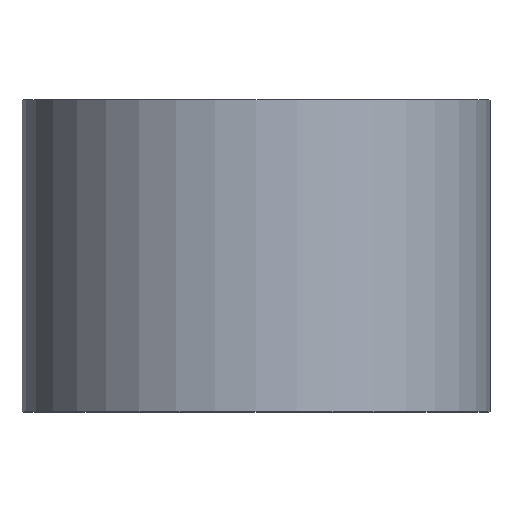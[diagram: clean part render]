
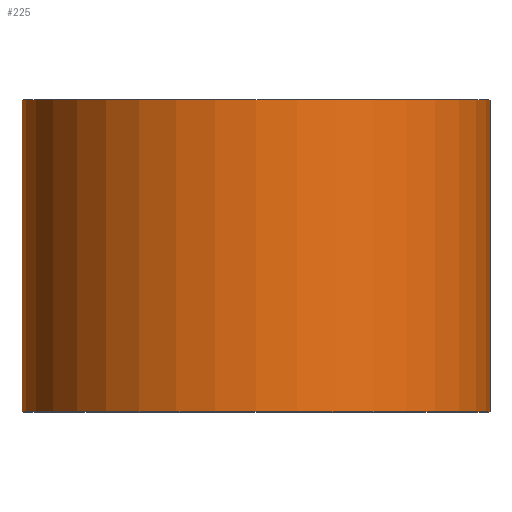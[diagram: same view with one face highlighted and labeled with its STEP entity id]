
A CAD part, top view. The second image highlights one B-rep face of the part: STEP entity #225.
In plain terms, the highlighted cylindrical face has radius 15 mm (diameter 30 mm), a partial arc.
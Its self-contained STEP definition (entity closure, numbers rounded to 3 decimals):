
#2 = CIRCLE ( 'NONE', #144, 15. ) ;
#3 = ORIENTED_EDGE ( 'NONE', *, *, #141, .T. ) ;
#12 = DIRECTION ( 'NONE',  ( -1., 0., 0. ) ) ;
#20 = CYLINDRICAL_SURFACE ( 'NONE', #175, 15. ) ;
#28 = FACE_OUTER_BOUND ( 'NONE', #284, .T. ) ;
#32 = ORIENTED_EDGE ( 'NONE', *, *, #157, .F. ) ;
#33 = DIRECTION ( 'NONE',  ( -1., 0., 0. ) ) ;
#58 = VECTOR ( 'NONE', #145, 1000. ) ;
#65 = DIRECTION ( 'NONE',  ( 0., 1., 0. ) ) ;
#76 = CARTESIAN_POINT ( 'NONE',  ( 0., 0., 0. ) ) ;
#80 = VERTEX_POINT ( 'NONE', #206 ) ;
#82 = CARTESIAN_POINT ( 'NONE',  ( 0., 20., 0. ) ) ;
#89 = VERTEX_POINT ( 'NONE', #224 ) ;
#92 = AXIS2_PLACEMENT_3D ( 'NONE', #189, #211, #159 ) ;
#93 = LINE ( 'NONE', #276, #234 ) ;
#113 = LINE ( 'NONE', #236, #58 ) ;
#126 = VERTEX_POINT ( 'NONE', #269 ) ;
#133 = EDGE_CURVE ( 'NONE', #191, #126, #93, .T. ) ;
#141 = EDGE_CURVE ( 'NONE', #191, #89, #172, .T. ) ;
#144 = AXIS2_PLACEMENT_3D ( 'NONE', #82, #201, #12 ) ;
#145 = DIRECTION ( 'NONE',  ( 0., 1., 0. ) ) ;
#157 = EDGE_CURVE ( 'NONE', #126, #80, #2, .T. ) ;
#159 = DIRECTION ( 'NONE',  ( -1., 0., 0. ) ) ;
#164 = CARTESIAN_POINT ( 'NONE',  ( -15., 0., 0. ) ) ;
#172 = CIRCLE ( 'NONE', #92, 15. ) ;
#175 = AXIS2_PLACEMENT_3D ( 'NONE', #76, #254, #33 ) ;
#189 = CARTESIAN_POINT ( 'NONE',  ( 0., 0., 0. ) ) ;
#191 = VERTEX_POINT ( 'NONE', #164 ) ;
#195 = ORIENTED_EDGE ( 'NONE', *, *, #133, .F. ) ;
#201 = DIRECTION ( 'NONE',  ( 0., 1., 0. ) ) ;
#206 = CARTESIAN_POINT ( 'NONE',  ( 15., 20., 0. ) ) ;
#211 = DIRECTION ( 'NONE',  ( 0., 1., 0. ) ) ;
#224 = CARTESIAN_POINT ( 'NONE',  ( 15., 0., 0. ) ) ;
#225 = ADVANCED_FACE ( 'NONE', ( #28 ), #20, .T. ) ;
#234 = VECTOR ( 'NONE', #65, 1000. ) ;
#236 = CARTESIAN_POINT ( 'NONE',  ( 15., 0., 0. ) ) ;
#254 = DIRECTION ( 'NONE',  ( 0., 1., 0. ) ) ;
#266 = EDGE_CURVE ( 'NONE', #89, #80, #113, .T. ) ;
#268 = ORIENTED_EDGE ( 'NONE', *, *, #266, .T. ) ;
#269 = CARTESIAN_POINT ( 'NONE',  ( -15., 20., 0. ) ) ;
#276 = CARTESIAN_POINT ( 'NONE',  ( -15., 0., 0. ) ) ;
#284 = EDGE_LOOP ( 'NONE', ( #3, #268, #32, #195 ) ) ;
